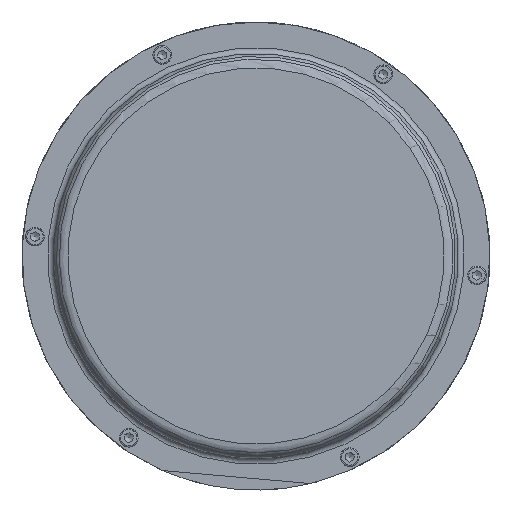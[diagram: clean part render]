
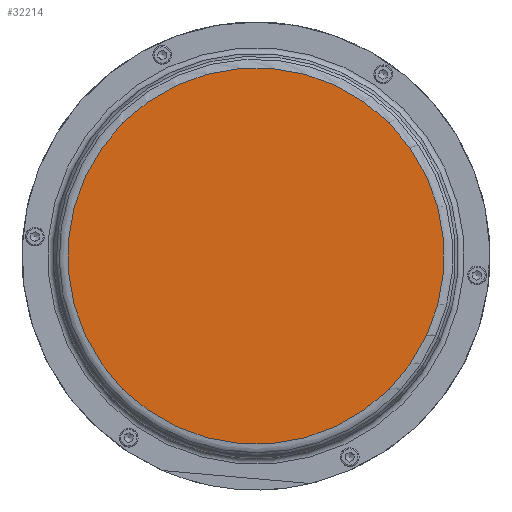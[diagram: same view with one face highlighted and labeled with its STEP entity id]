
A CAD part, left-side view. The second image highlights one B-rep face of the part: STEP entity #32214.
In plain terms, the highlighted planar face has unit normal (-1, 0, 0).
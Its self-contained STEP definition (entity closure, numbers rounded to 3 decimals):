
#7930=FACE_OUTER_BOUND('',#9740,.T.);
#9740=EDGE_LOOP('',(#24087));
#11132=CIRCLE('',#34330,131.5);
#13494=VERTEX_POINT('',#50060);
#17244=EDGE_CURVE('',#13494,#13494,#11132,.T.);
#24087=ORIENTED_EDGE('',*,*,#17244,.F.);
#29314=PLANE('',#34335);
#32214=ADVANCED_FACE('',(#7930),#29314,.T.);
#34330=AXIS2_PLACEMENT_3D('',#50062,#39820,#39821);
#34335=AXIS2_PLACEMENT_3D('',#50069,#39830,#39831);
#39820=DIRECTION('center_axis',(1.,0.,0.));
#39821=DIRECTION('ref_axis',(0.,0.087,-0.996));
#39830=DIRECTION('center_axis',(-1.,0.,0.));
#39831=DIRECTION('ref_axis',(0.,-0.996,-0.087));
#50060=CARTESIAN_POINT('',(-312.075,-131.,-11.461));
#50062=CARTESIAN_POINT('Origin',(-312.075,0.,
0.));
#50069=CARTESIAN_POINT('Origin',(-312.075,-6.166,70.481));
